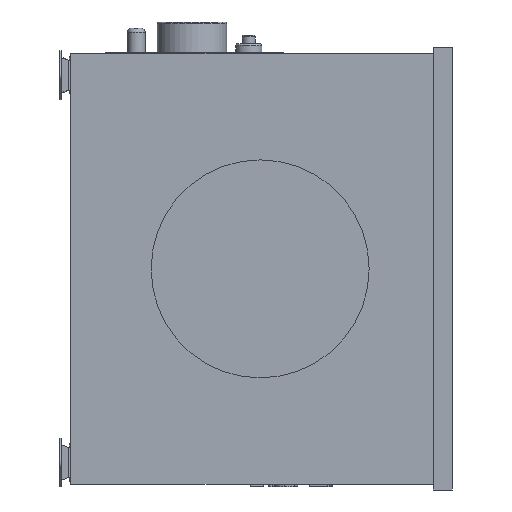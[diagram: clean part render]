
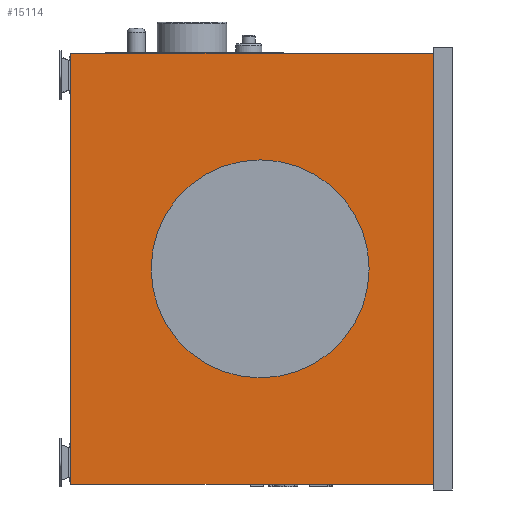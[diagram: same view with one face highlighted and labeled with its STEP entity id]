
A CAD part, front view. The second image highlights one B-rep face of the part: STEP entity #15114.
In plain terms, the highlighted planar face has unit normal (0, -1, 0).
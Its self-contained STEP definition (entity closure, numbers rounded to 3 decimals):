
#179=CIRCLE('',#15709,125.);
#318=FACE_BOUND('',#2347,.T.);
#1493=FACE_OUTER_BOUND('',#2346,.T.);
#2346=EDGE_LOOP('',(#13697,#13698,#13699,#13700));
#2347=EDGE_LOOP('',(#13701));
#3370=LINE('',#26819,#4655);
#3631=LINE('',#31595,#4916);
#3632=LINE('',#31597,#4917);
#3633=LINE('',#31598,#4918);
#4655=VECTOR('',#17226,10.);
#4916=VECTOR('',#18131,10.);
#4917=VECTOR('',#18134,10.);
#4918=VECTOR('',#18135,10.);
#6849=VERTEX_POINT('',#26815);
#6851=VERTEX_POINT('',#26818);
#7144=VERTEX_POINT('',#31582);
#7146=VERTEX_POINT('',#31589);
#7148=VERTEX_POINT('',#31593);
#8892=EDGE_CURVE('',#6849,#6851,#3370,.T.);
#9342=EDGE_CURVE('',#7144,#7144,#179,.T.);
#9346=EDGE_CURVE('',#7146,#7148,#3631,.T.);
#9347=EDGE_CURVE('',#7146,#6849,#3632,.T.);
#9348=EDGE_CURVE('',#6851,#7148,#3633,.T.);
#13697=ORIENTED_EDGE('',*,*,#9347,.F.);
#13698=ORIENTED_EDGE('',*,*,#9346,.T.);
#13699=ORIENTED_EDGE('',*,*,#9348,.F.);
#13700=ORIENTED_EDGE('',*,*,#8892,.F.);
#13701=ORIENTED_EDGE('',*,*,#9342,.T.);
#14095=PLANE('',#15713);
#15114=ADVANCED_FACE('',(#1493,#318),#14095,.T.);
#15709=AXIS2_PLACEMENT_3D('',#31584,#18120,#18121);
#15713=AXIS2_PLACEMENT_3D('',#31596,#18132,#18133);
#17226=DIRECTION('',(-1.,0.,0.));
#18120=DIRECTION('center_axis',(0.,1.,0.));
#18121=DIRECTION('ref_axis',(0.,0.,
1.));
#18131=DIRECTION('',(-1.,0.,0.));
#18132=DIRECTION('center_axis',(0.,-1.,0.));
#18133=DIRECTION('ref_axis',(0.,0.,
1.));
#18134=DIRECTION('',(0.,0.,-1.));
#18135=DIRECTION('',(0.,0.,1.));
#26815=CARTESIAN_POINT('',(804.595,450.413,-163.388));
#26818=CARTESIAN_POINT('',(389.095,450.413,-163.388));
#26819=CARTESIAN_POINT('',(804.595,450.413,-163.388));
#31582=CARTESIAN_POINT('',(606.095,450.413,-41.388));
#31584=CARTESIAN_POINT('Origin',(606.095,450.413,83.612));
#31589=CARTESIAN_POINT('',(804.595,450.413,330.612));
#31593=CARTESIAN_POINT('',(389.095,450.413,330.612));
#31595=CARTESIAN_POINT('',(804.595,450.413,330.612));
#31596=CARTESIAN_POINT('Origin',(804.595,450.413,-163.388));
#31597=CARTESIAN_POINT('',(804.595,450.413,-39.888));
#31598=CARTESIAN_POINT('',(389.095,450.413,-163.388));
